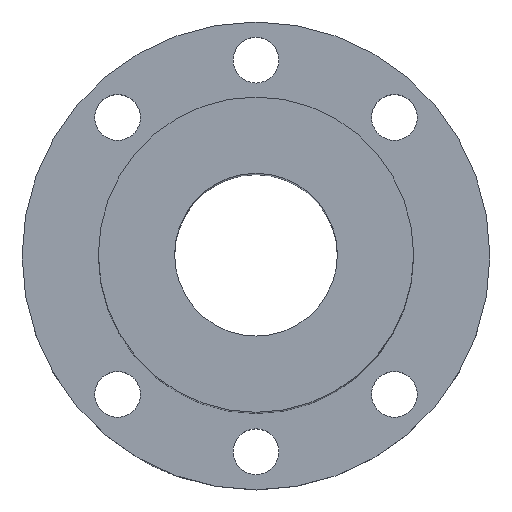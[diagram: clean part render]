
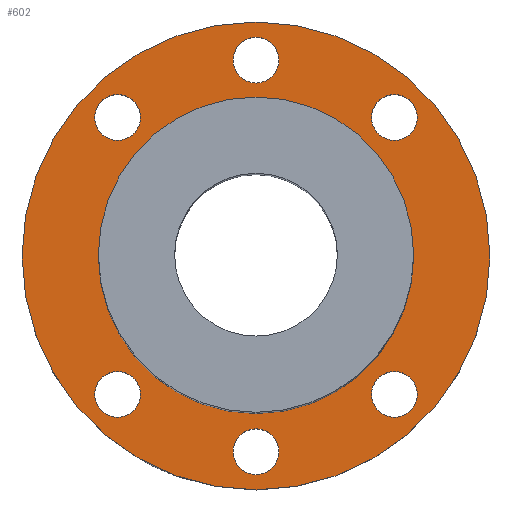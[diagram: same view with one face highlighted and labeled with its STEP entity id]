
A CAD part, top view. The second image highlights one B-rep face of the part: STEP entity #602.
In plain terms, the highlighted planar face has unit normal (0, 0, 1).
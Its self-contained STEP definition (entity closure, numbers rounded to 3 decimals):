
#101=CARTESIAN_POINT('',(0.,0.,14.));
#102=DIRECTION('',(0.,0.,1.));
#103=DIRECTION('',(1.,0.,0.));
#104=AXIS2_PLACEMENT_3D('',#101,#102,#103);
#106=CARTESIAN_POINT('',(0.,0.,14.));
#107=DIRECTION('',(0.,0.,1.));
#108=DIRECTION('',(-1.,0.,0.));
#109=AXIS2_PLACEMENT_3D('',#106,#107,#108);
#111=CARTESIAN_POINT('',(27.224,-27.224,14.));
#112=DIRECTION('',(0.,0.,-1.));
#113=DIRECTION('',(-1.,0.,0.));
#114=AXIS2_PLACEMENT_3D('',#111,#112,#113);
#116=CARTESIAN_POINT('',(27.224,-27.224,14.));
#117=DIRECTION('',(0.,0.,-1.));
#118=DIRECTION('',(1.,0.,0.));
#119=AXIS2_PLACEMENT_3D('',#116,#117,#118);
#121=CARTESIAN_POINT('',(-27.224,27.224,14.));
#122=DIRECTION('',(0.,0.,-1.));
#123=DIRECTION('',(1.,0.,0.));
#124=AXIS2_PLACEMENT_3D('',#121,#122,#123);
#126=CARTESIAN_POINT('',(-27.224,27.224,14.));
#127=DIRECTION('',(0.,0.,-1.));
#128=DIRECTION('',(-1.,0.,0.));
#129=AXIS2_PLACEMENT_3D('',#126,#127,#128);
#131=CARTESIAN_POINT('',(0.,-38.5,14.));
#132=DIRECTION('',(0.,0.,-1.));
#133=DIRECTION('',(1.,0.,0.));
#134=AXIS2_PLACEMENT_3D('',#131,#132,#133);
#136=CARTESIAN_POINT('',(0.,-38.5,14.));
#137=DIRECTION('',(0.,0.,-1.));
#138=DIRECTION('',(-1.,0.,0.));
#139=AXIS2_PLACEMENT_3D('',#136,#137,#138);
#141=CARTESIAN_POINT('',(0.,0.,14.));
#142=DIRECTION('',(0.,0.,-1.));
#143=DIRECTION('',(1.,0.,0.));
#144=AXIS2_PLACEMENT_3D('',#141,#142,#143);
#146=CARTESIAN_POINT('',(0.,0.,14.));
#147=DIRECTION('',(0.,0.,-1.));
#148=DIRECTION('',(-1.,0.,0.));
#149=AXIS2_PLACEMENT_3D('',#146,#147,#148);
#151=CARTESIAN_POINT('',(0.,38.5,14.));
#152=DIRECTION('',(0.,0.,-1.));
#153=DIRECTION('',(1.,0.,0.));
#154=AXIS2_PLACEMENT_3D('',#151,#152,#153);
#156=CARTESIAN_POINT('',(0.,38.5,14.));
#157=DIRECTION('',(0.,0.,-1.));
#158=DIRECTION('',(-1.,0.,0.));
#159=AXIS2_PLACEMENT_3D('',#156,#157,#158);
#161=CARTESIAN_POINT('',(27.224,27.224,14.));
#162=DIRECTION('',(0.,0.,-1.));
#163=DIRECTION('',(-1.,0.,0.));
#164=AXIS2_PLACEMENT_3D('',#161,#162,#163);
#166=CARTESIAN_POINT('',(27.224,27.224,14.));
#167=DIRECTION('',(0.,0.,-1.));
#168=DIRECTION('',(1.,0.,0.));
#169=AXIS2_PLACEMENT_3D('',#166,#167,#168);
#171=CARTESIAN_POINT('',(-27.224,-27.224,14.));
#172=DIRECTION('',(0.,0.,-1.));
#173=DIRECTION('',(1.,0.,0.));
#174=AXIS2_PLACEMENT_3D('',#171,#172,#173);
#176=CARTESIAN_POINT('',(-27.224,-27.224,14.));
#177=DIRECTION('',(0.,0.,-1.));
#178=DIRECTION('',(-1.,0.,0.));
#179=AXIS2_PLACEMENT_3D('',#176,#177,#178);
#347=CARTESIAN_POINT('',(46.,0.,14.));
#349=VERTEX_POINT('',#347);
#351=CARTESIAN_POINT('',(-46.,0.,14.));
#353=VERTEX_POINT('',#351);
#355=CARTESIAN_POINT('',(-31.,0.,14.));
#356=CARTESIAN_POINT('',(31.,0.,14.));
#357=VERTEX_POINT('',#355);
#358=VERTEX_POINT('',#356);
#363=CARTESIAN_POINT('',(31.724,27.224,14.));
#365=VERTEX_POINT('',#363);
#367=CARTESIAN_POINT('',(22.724,27.224,14.));
#369=VERTEX_POINT('',#367);
#371=CARTESIAN_POINT('',(4.5,38.5,14.));
#373=VERTEX_POINT('',#371);
#375=CARTESIAN_POINT('',(-4.5,38.5,14.));
#377=VERTEX_POINT('',#375);
#379=CARTESIAN_POINT('',(4.5,-38.5,14.));
#381=VERTEX_POINT('',#379);
#383=CARTESIAN_POINT('',(-4.5,-38.5,14.));
#385=VERTEX_POINT('',#383);
#387=CARTESIAN_POINT('',(-22.724,27.224,14.));
#389=VERTEX_POINT('',#387);
#391=CARTESIAN_POINT('',(-31.724,27.224,14.));
#393=VERTEX_POINT('',#391);
#395=CARTESIAN_POINT('',(31.724,-27.224,14.));
#397=VERTEX_POINT('',#395);
#399=CARTESIAN_POINT('',(22.724,-27.224,14.));
#401=VERTEX_POINT('',#399);
#403=CARTESIAN_POINT('',(-22.724,-27.224,14.));
#405=VERTEX_POINT('',#403);
#407=CARTESIAN_POINT('',(-31.724,-27.224,14.));
#409=VERTEX_POINT('',#407);
#551=CARTESIAN_POINT('',(13.612,-13.612,14.));
#552=DIRECTION('',(0.,0.,1.));
#553=DIRECTION('',(1.,0.,0.));
#554=AXIS2_PLACEMENT_3D('',#551,#552,#553);
#555=PLANE('',#554);
#556=ORIENTED_EDGE('',*,*,#444,.F.);
#558=ORIENTED_EDGE('',*,*,#557,.F.);
#559=EDGE_LOOP('',(#556,#558));
#560=FACE_OUTER_BOUND('',#559,.F.);
#562=ORIENTED_EDGE('',*,*,#561,.F.);
#564=ORIENTED_EDGE('',*,*,#563,.F.);
#565=EDGE_LOOP('',(#562,#564));
#566=FACE_BOUND('',#565,.F.);
#568=ORIENTED_EDGE('',*,*,#567,.F.);
#570=ORIENTED_EDGE('',*,*,#569,.F.);
#571=EDGE_LOOP('',(#568,#570));
#572=FACE_BOUND('',#571,.F.);
#574=ORIENTED_EDGE('',*,*,#573,.F.);
#576=ORIENTED_EDGE('',*,*,#575,.F.);
#577=EDGE_LOOP('',(#574,#576));
#578=FACE_BOUND('',#577,.F.);
#580=ORIENTED_EDGE('',*,*,#579,.F.);
#581=ORIENTED_EDGE('',*,*,#541,.F.);
#582=EDGE_LOOP('',(#580,#581));
#583=FACE_BOUND('',#582,.F.);
#585=ORIENTED_EDGE('',*,*,#584,.F.);
#587=ORIENTED_EDGE('',*,*,#586,.F.);
#588=EDGE_LOOP('',(#585,#587));
#589=FACE_BOUND('',#588,.F.);
#591=ORIENTED_EDGE('',*,*,#590,.F.);
#593=ORIENTED_EDGE('',*,*,#592,.F.);
#594=EDGE_LOOP('',(#591,#593));
#595=FACE_BOUND('',#594,.F.);
#597=ORIENTED_EDGE('',*,*,#596,.F.);
#599=ORIENTED_EDGE('',*,*,#598,.F.);
#600=EDGE_LOOP('',(#597,#599));
#601=FACE_BOUND('',#600,.F.);
#602=ADVANCED_FACE('',(#560,#566,#572,#578,#583,#589,#595,#601),#555,.T.);
#105=CIRCLE('',#104,46.);
#110=CIRCLE('',#109,46.);
#115=CIRCLE('',#114,4.5);
#120=CIRCLE('',#119,4.5);
#125=CIRCLE('',#124,4.5);
#130=CIRCLE('',#129,4.5);
#135=CIRCLE('',#134,4.5);
#140=CIRCLE('',#139,4.5);
#145=CIRCLE('',#144,31.);
#150=CIRCLE('',#149,31.);
#155=CIRCLE('',#154,4.5);
#160=CIRCLE('',#159,4.5);
#165=CIRCLE('',#164,4.5);
#170=CIRCLE('',#169,4.5);
#175=CIRCLE('',#174,4.5);
#180=CIRCLE('',#179,4.5);
#444=EDGE_CURVE('',#349,#353,#105,.T.);
#541=EDGE_CURVE('',#357,#358,#150,.T.);
#557=EDGE_CURVE('',#353,#349,#110,.T.);
#561=EDGE_CURVE('',#401,#397,#115,.T.);
#563=EDGE_CURVE('',#397,#401,#120,.T.);
#567=EDGE_CURVE('',#389,#393,#125,.T.);
#569=EDGE_CURVE('',#393,#389,#130,.T.);
#573=EDGE_CURVE('',#381,#385,#135,.T.);
#575=EDGE_CURVE('',#385,#381,#140,.T.);
#579=EDGE_CURVE('',#358,#357,#145,.T.);
#584=EDGE_CURVE('',#373,#377,#155,.T.);
#586=EDGE_CURVE('',#377,#373,#160,.T.);
#590=EDGE_CURVE('',#369,#365,#165,.T.);
#592=EDGE_CURVE('',#365,#369,#170,.T.);
#596=EDGE_CURVE('',#405,#409,#175,.T.);
#598=EDGE_CURVE('',#409,#405,#180,.T.);
